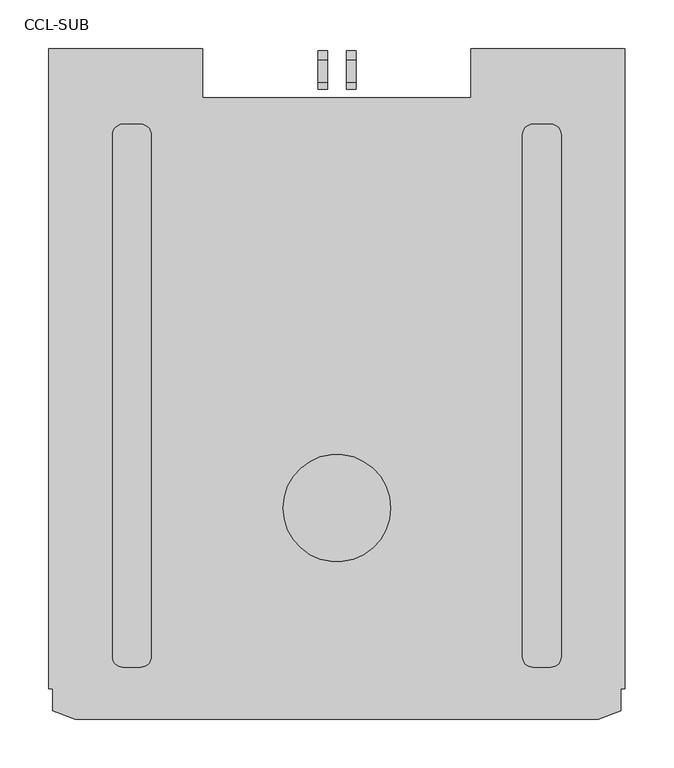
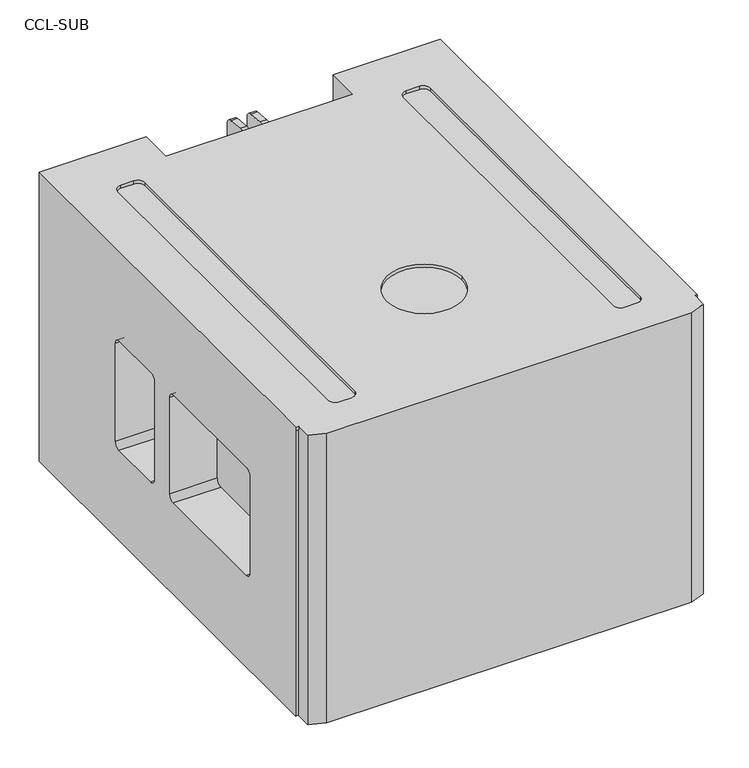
"""IFC4 building model written with IfcOpenShell, lengths in millimetres: proxy geometry, d&b CL-Series CCL-SUB : CCL-SUB."""

from ifc_helpers import new_model, si_unit, point, frame, frame_2d, origin, place, context, project, spatial, polyline, circle_curve, trimmed, segment, composite_curve, outline, extrude, source, transform, mapped, element, save
from ifc_brep_helpers import plane_surface, revolved_surface, advanced_brep


def ccl_sub_ec176843(model_context):
    return source(origin(), model_context, "Body", "SolidModel", [
        advanced_brep(
        [(2232.0239358, -36.5494027, 5.0), (2209.0, -28.1693754, 5.0), (2209.0, -4.1494027, 5.0), (2205.0, -4.1494027, 5.0), (2205.0, 649.4505973, 5.0), (2362.5, 649.4505973, 5.0), (2362.5, 599.4505973, 5.0), (2637.5, 599.4505973, 5.0), (2637.5, 649.4505973, 5.0), (2795.0, 649.4505973, 5.0), (2795.0, -5.5494027, 5.0), (2791.0, -5.5494027, 5.0), (2791.0, -28.1693754, 5.0), (2767.9760642, -36.5494027, 5.0), (2309.8, 561.7505973, 450.0), (2299.3, 572.2505973, 450.0), (2280.7, 572.2505973, 450.0), (2270.2, 561.7505973, 450.0), (2270.2, 27.1505973, 450.0), (2280.7, 16.6505973, 450.0), (2299.3, 16.6505973, 450.0), (2309.8, 27.1505973, 450.0), (2555.0, 179.4505973, 450.0), (2445.0, 179.4505973, 450.0), (2719.3, 572.2505973, 450.0), (2700.7, 572.2505973, 450.0), (2690.2, 561.7505973, 450.0), (2690.2, 27.1505973, 450.0), (2700.7, 16.6505973, 450.0), (2719.3, 16.6505973, 450.0), (2729.8, 27.1505973, 450.0), (2729.8, 561.7505973, 450.0), (2362.5, 649.4505973, 455.0), (2205.0, 649.4505973, 455.0), (2205.0, -5.5494027, 455.0), (2209.0, -5.5494027, 455.0), (2209.0, -28.1693754, 455.0), (2232.0239358, -36.5494027, 455.0), (2767.9760642, -36.5494027, 455.0), (2791.0, -28.1693754, 455.0), (2791.0, -5.5494027, 455.0), (2795.0, -5.5494027, 455.0), (2795.0, 649.4505973, 455.0), (2637.5, 649.4505973, 455.0), (2637.5, 599.4505973, 455.0), (2362.5, 599.4505973, 455.0), (2299.3, 572.2505973, 455.0), (2309.8, 561.7505973, 455.0), (2309.8, 27.1505973, 455.0), (2299.3, 16.6505973, 455.0), (2280.7, 16.6505973, 455.0), (2270.2, 27.1505973, 455.0), (2270.2, 561.7505973, 455.0), (2280.7, 572.2505973, 455.0), (2445.0, 179.4505973, 455.0), (2555.0, 179.4505973, 455.0), (2700.7, 572.2505973, 455.0), (2719.3, 572.2505973, 455.0), (2729.8, 561.7505973, 455.0), (2729.8, 27.1505973, 455.0), (2719.3, 16.6505973, 455.0), (2700.7, 16.6505973, 455.0), (2690.2, 27.1505973, 455.0), (2690.2, 561.7505973, 455.0), (2718.5, 644.4505973, 271.0), (2729.0, 644.4505973, 260.5), (2729.0, 644.4505973, 159.5), (2718.5, 644.4505973, 149.0), (2674.5, 644.4505973, 149.0), (2664.0, 644.4505973, 159.5), (2664.0, 644.4505973, 260.5), (2674.5, 644.4505973, 271.0), (2281.5, 644.4505973, 271.0), (2325.5, 644.4505973, 271.0), (2336.0, 644.4505973, 260.5), (2336.0, 644.4505973, 159.5), (2325.5, 644.4505973, 149.0), (2281.5, 644.4505973, 149.0), (2271.0, 644.4505973, 159.5), (2271.0, 644.4505973, 260.5), (2725.0, 455.2505973, 306.2), (2725.0, 446.2505973, 315.2), (2725.0, 365.2505973, 315.2), (2725.0, 356.2505973, 306.2), (2725.0, 356.2505973, 154.2), (2725.0, 365.2505973, 145.2), (2725.0, 446.2505973, 145.2), (2725.0, 455.2505973, 154.2), (2725.0, 316.7505973, 306.2), (2725.0, 307.7505973, 315.2), (2725.0, 121.7505973, 315.2), (2725.0, 112.7505973, 306.2), (2725.0, 112.7505973, 156.7), (2725.0, 121.7505973, 147.7), (2725.0, 307.7505973, 147.7), (2725.0, 316.7505973, 156.7), (2729.0, 649.4505973, 260.5), (2718.5, 649.4505973, 271.0), (2674.5, 649.4505973, 271.0), (2664.0, 649.4505973, 260.5), (2664.0, 649.4505973, 159.5), (2674.5, 649.4505973, 149.0), (2718.5, 649.4505973, 149.0), (2729.0, 649.4505973, 159.5), (2209.0, -5.5494027, 450.0), (2205.0, -5.5494027, 450.0), (2205.0, -4.1494027, 450.0), (2209.0, -4.1494027, 450.0), (2625.0, 599.4505973, 145.0), (2625.0, 599.4505973, 395.0), (2612.0, 599.4505973, 408.0), (2544.3424624, 599.4505973, 408.0), (2524.5518543, 599.4505973, 334.1404454), (2524.5518543, 599.4505973, 132.0), (2612.0, 599.4505973, 132.0), (2388.0, 599.4505973, 408.0), (2375.0, 599.4505973, 395.0), (2375.0, 599.4505973, 145.0), (2388.0, 599.4505973, 132.0), (2475.4481457, 599.4505973, 132.0), (2475.4481457, 599.4505973, 334.1404454), (2455.6575376, 599.4505973, 408.0), (2549.4918854, 599.4505973, 42.6706286), (2558.1852178, 599.4505973, 36.0), (2617.0, 599.4505973, 36.0), (2626.0, 599.4505973, 45.0), (2626.0, 599.4505973, 120.0), (2617.0, 599.4505973, 129.0), (2538.0890284, 599.4505973, 129.0), (2529.3956959, 599.4505973, 117.6706286), (2450.5081146, 599.4505973, 42.6706286), (2470.6043041, 599.4505973, 117.6706286), (2461.9109716, 599.4505973, 129.0), (2383.0, 599.4505973, 129.0), (2374.0, 599.4505973, 120.0), (2374.0, 599.4505973, 45.0), (2383.0, 599.4505973, 36.0), (2441.8147822, 599.4505973, 36.0), (2325.5, 649.4505973, 271.0), (2281.5, 649.4505973, 271.0), (2271.0, 649.4505973, 260.5), (2271.0, 649.4505973, 159.5), (2281.5, 649.4505973, 149.0), (2325.5, 649.4505973, 149.0), (2336.0, 649.4505973, 159.5), (2336.0, 649.4505973, 260.5), (2275.0, 446.2505973, 315.2), (2275.0, 455.2505973, 306.2), (2275.0, 455.2505973, 154.2), (2275.0, 446.2505973, 145.2), (2275.0, 365.2505973, 145.2), (2275.0, 356.2505973, 154.2), (2275.0, 356.2505973, 306.2), (2275.0, 365.2505973, 315.2), (2275.0, 307.7505973, 315.2), (2275.0, 316.7505973, 306.2), (2275.0, 316.7505973, 156.7), (2275.0, 307.7505973, 147.7), (2275.0, 121.7505973, 147.7), (2275.0, 112.7505973, 156.7), (2275.0, 112.7505973, 306.2), (2275.0, 121.7505973, 315.2), (2795.0, 446.2505973, 315.2), (2795.0, 455.2505973, 306.2), (2795.0, 455.2505973, 154.2), (2795.0, 446.2505973, 145.2), (2795.0, 365.2505973, 145.2), (2795.0, 356.2505973, 154.2), (2795.0, 356.2505973, 306.2), (2795.0, 365.2505973, 315.2), (2795.0, 307.7505973, 315.2), (2795.0, 316.7505973, 306.2), (2795.0, 316.7505973, 156.7), (2795.0, 307.7505973, 147.7), (2795.0, 121.7505973, 147.7), (2795.0, 112.7505973, 156.7), (2795.0, 112.7505973, 306.2), (2795.0, 121.7505973, 315.2), (2205.0, 446.2505973, 315.2), (2205.0, 365.2505973, 315.2), (2205.0, 356.2505973, 306.2), (2205.0, 356.2505973, 154.2), (2205.0, 365.2505973, 145.2), (2205.0, 446.2505973, 145.2), (2205.0, 455.2505973, 154.2), (2205.0, 455.2505973, 306.2), (2205.0, 307.7505973, 315.2), (2205.0, 121.7505973, 315.2), (2205.0, 112.7505973, 306.2), (2205.0, 112.7505973, 156.7), (2205.0, 121.7505973, 147.7), (2205.0, 307.7505973, 147.7), (2205.0, 316.7505973, 156.7), (2205.0, 316.7505973, 306.2), (2625.0, 594.4505973, 395.0), (2625.0, 594.4505973, 145.0), (2612.0, 594.4505973, 132.0), (2524.5518543, 594.4505973, 132.0), (2524.5518543, 594.4505973, 334.1404454), (2544.3424624, 594.4505973, 408.0), (2612.0, 594.4505973, 408.0), (2375.0, 594.4505973, 395.0), (2388.0, 594.4505973, 408.0), (2455.6575376, 594.4505973, 408.0), (2475.4481457, 594.4505973, 334.1404454), (2475.4481457, 594.4505973, 132.0), (2388.0, 594.4505973, 132.0), (2375.0, 594.4505973, 145.0), (2558.1852178, 594.4505973, 36.0), (2549.4918854, 594.4505973, 42.6706286), (2529.3956959, 594.4505973, 117.6706286), (2538.0890284, 594.4505973, 129.0), (2617.0, 594.4505973, 129.0), (2626.0, 594.4505973, 120.0), (2626.0, 594.4505973, 45.0), (2617.0, 594.4505973, 36.0), (2470.6043041, 594.4505973, 117.6706286), (2450.5081146, 594.4505973, 42.6706286), (2441.8147822, 594.4505973, 36.0), (2383.0, 594.4505973, 36.0), (2374.0, 594.4505973, 45.0), (2374.0, 594.4505973, 120.0), (2383.0, 594.4505973, 129.0), (2461.9109716, 594.4505973, 129.0)],
        [
            (0, 1),
            (1, 2),
            (2, 3),
            (3, 4),
            (4, 5),
            (5, 6),
            (6, 7),
            (7, 8),
            (8, 9),
            (9, 10),
            (10, 11),
            (11, 12),
            (12, 13),
            (13, 0),
            (14, 15, circle_curve(frame((2299.3, 561.7505973, 450.0), z_axis=(0.0, 0.0, 1.0), x_axis=(0.0, 1.0, 0.0)), 10.5)),
            (15, 16),
            (16, 17, circle_curve(frame((2280.7, 561.7505973, 450.0), z_axis=(0.0, 0.0, 1.0), x_axis=(1.0, 0.0, 0.0)), 10.5)),
            (17, 18),
            (18, 19, circle_curve(frame((2280.7, 27.1505973, 450.0), z_axis=(0.0, 0.0, 1.0), x_axis=(0.0, 1.0, 0.0)), 10.5)),
            (19, 20),
            (20, 21, circle_curve(frame((2299.3, 27.1505973, 450.0), z_axis=(0.0, 0.0, 1.0), x_axis=(0.0, 1.0, 0.0)), 10.5)),
            (21, 14),
            (22, 23, circle_curve(frame((2500.0, 179.4505973, 450.0), z_axis=(0.0, 0.0, 1.0), x_axis=(1.0, 0.0, 0.0)), 55.0)),
            (23, 22, circle_curve(frame((2500.0, 179.4505973, 450.0), z_axis=(0.0, 0.0, 1.0), x_axis=(1.0, 0.0, 0.0)), 55.0)),
            (24, 25),
            (25, 26, circle_curve(frame((2700.7, 561.7505973, 450.0), z_axis=(0.0, 0.0, 1.0), x_axis=(0.0, 1.0, 0.0)), 10.5)),
            (26, 27),
            (27, 28, circle_curve(frame((2700.7, 27.1505973, 450.0), z_axis=(0.0, 0.0, 1.0), x_axis=(0.0, 1.0, 0.0)), 10.5)),
            (28, 29),
            (29, 30, circle_curve(frame((2719.3, 27.1505973, 450.0), z_axis=(0.0, 0.0, 1.0), x_axis=(0.0, 1.0, 0.0)), 10.5)),
            (30, 31),
            (31, 24, circle_curve(frame((2719.3, 561.7505973, 450.0), z_axis=(0.0, 0.0, 1.0), x_axis=(-1.0, 0.0, 0.0)), 10.5)),
            (32, 33),
            (33, 34),
            (34, 35),
            (35, 36),
            (36, 37),
            (37, 38),
            (38, 39),
            (39, 40),
            (40, 41),
            (41, 42),
            (42, 43),
            (43, 44),
            (44, 45),
            (45, 32),
            (46, 47, circle_curve(frame((2299.3, 561.7505973, 455.0), z_axis=(0.0, 0.0, -1.0), x_axis=(0.0, 1.0, 0.0)), 10.5)),
            (47, 48),
            (48, 49, circle_curve(frame((2299.3, 27.1505973, 455.0), z_axis=(0.0, 0.0, -1.0), x_axis=(0.0, 1.0, 0.0)), 10.5)),
            (49, 50),
            (50, 51, circle_curve(frame((2280.7, 27.1505973, 455.0), z_axis=(0.0, 0.0, -1.0), x_axis=(0.0, 1.0, 0.0)), 10.5)),
            (51, 52),
            (52, 53, circle_curve(frame((2280.7, 561.7505973, 455.0), z_axis=(0.0, 0.0, -1.0), x_axis=(1.0, 0.0, 0.0)), 10.5)),
            (53, 46),
            (54, 55, circle_curve(frame((2500.0, 179.4505973, 455.0), z_axis=(0.0, 0.0, -1.0), x_axis=(1.0, 0.0, 0.0)), 55.0)),
            (55, 54, circle_curve(frame((2500.0, 179.4505973, 455.0), z_axis=(0.0, 0.0, -1.0), x_axis=(1.0, 0.0, 0.0)), 55.0)),
            (56, 57),
            (57, 58, circle_curve(frame((2719.3, 561.7505973, 455.0), z_axis=(0.0, 0.0, -1.0), x_axis=(-1.0, 0.0, 0.0)), 10.5)),
            (58, 59),
            (59, 60, circle_curve(frame((2719.3, 27.1505973, 455.0), z_axis=(0.0, 0.0, -1.0), x_axis=(0.0, 1.0, 0.0)), 10.5)),
            (60, 61),
            (61, 62, circle_curve(frame((2700.7, 27.1505973, 455.0), z_axis=(0.0, 0.0, -1.0), x_axis=(0.0, 1.0, 0.0)), 10.5)),
            (62, 63),
            (63, 56, circle_curve(frame((2700.7, 561.7505973, 455.0), z_axis=(0.0, 0.0, -1.0), x_axis=(0.0, 1.0, 0.0)), 10.5)),
            (46, 15),
            (14, 47),
            (21, 48),
            (20, 49),
            (19, 50),
            (18, 51),
            (17, 52),
            (53, 16),
            (64, 65, circle_curve(frame((2718.5, 644.4505973, 260.5), z_axis=(0.0, 1.0, 0.0), x_axis=(1.0, 0.0, 0.0)), 10.5)),
            (65, 66),
            (66, 67, circle_curve(frame((2718.5, 644.4505973, 159.5), z_axis=(0.0, 1.0, 0.0), x_axis=(1.0, 0.0, 0.0)), 10.5)),
            (67, 68),
            (68, 69, circle_curve(frame((2674.5, 644.4505973, 159.5), z_axis=(0.0, 1.0, 0.0), x_axis=(1.0, 0.0, 0.0)), 10.5)),
            (69, 70),
            (70, 71, circle_curve(frame((2674.5, 644.4505973, 260.5), z_axis=(0.0, 1.0, 0.0), x_axis=(1.0, 0.0, 0.0)), 10.5)),
            (71, 64),
            (72, 73),
            (73, 74, circle_curve(frame((2325.5, 644.4505973, 260.5), z_axis=(0.0, 1.0, 0.0), x_axis=(-1.0, 0.0, 0.0)), 10.5)),
            (74, 75),
            (75, 76, circle_curve(frame((2325.5, 644.4505973, 159.5), z_axis=(0.0, 1.0, 0.0), x_axis=(-1.0, 0.0, 0.0)), 10.5)),
            (76, 77),
            (77, 78, circle_curve(frame((2281.5, 644.4505973, 159.5), z_axis=(0.0, 1.0, 0.0), x_axis=(-1.0, 0.0, 0.0)), 10.5)),
            (78, 79),
            (79, 72, circle_curve(frame((2281.5, 644.4505973, 260.5), z_axis=(0.0, 1.0, 0.0), x_axis=(-1.0, 0.0, 0.0)), 10.5)),
            (13, 38),
            (37, 0),
            (80, 81, circle_curve(frame((2725.0, 446.2505973, 306.2), z_axis=(1.0, 0.0, 0.0), x_axis=(0.0, 1.0, 0.0)), 9.0)),
            (81, 82),
            (82, 83, circle_curve(frame((2725.0, 365.2505973, 306.2), z_axis=(1.0, 0.0, 0.0), x_axis=(0.0, 1.0, 0.0)), 9.0)),
            (83, 84),
            (84, 85, circle_curve(frame((2725.0, 365.2505973, 154.2), z_axis=(1.0, 0.0, 0.0), x_axis=(0.0, 1.0, 0.0)), 9.0)),
            (85, 86),
            (86, 87, circle_curve(frame((2725.0, 446.2505973, 154.2), z_axis=(1.0, 0.0, 0.0), x_axis=(0.0, 1.0, 0.0)), 9.0)),
            (87, 80),
            (88, 89, circle_curve(frame((2725.0, 307.7505973, 306.2), z_axis=(1.0, 0.0, 0.0), x_axis=(0.0, 0.0, 1.0)), 9.0)),
            (89, 90),
            (90, 91, circle_curve(frame((2725.0, 121.7505973, 306.2), z_axis=(1.0, 0.0, 0.0), x_axis=(0.0, 0.0, 1.0)), 9.0)),
            (91, 92),
            (92, 93, circle_curve(frame((2725.0, 121.7505973, 156.7), z_axis=(1.0, 0.0, 0.0), x_axis=(0.0, 0.0, -1.0)), 9.0)),
            (93, 94),
            (94, 95, circle_curve(frame((2725.0, 307.7505973, 156.7), z_axis=(1.0, 0.0, 0.0), x_axis=(0.0, 0.0, -1.0)), 9.0)),
            (95, 88),
            (8, 43),
            (42, 9),
            (96, 97, circle_curve(frame((2718.5, 649.4505973, 260.5), z_axis=(0.0, -1.0, 0.0), x_axis=(1.0, 0.0, 0.0)), 10.5)),
            (97, 98),
            (98, 99, circle_curve(frame((2674.5, 649.4505973, 260.5), z_axis=(0.0, -1.0, 0.0), x_axis=(1.0, 0.0, 0.0)), 10.5)),
            (99, 100),
            (100, 101, circle_curve(frame((2674.5, 649.4505973, 159.5), z_axis=(0.0, -1.0, 0.0), x_axis=(1.0, 0.0, 0.0)), 10.5)),
            (101, 102),
            (102, 103, circle_curve(frame((2718.5, 649.4505973, 159.5), z_axis=(0.0, -1.0, 0.0), x_axis=(1.0, 0.0, 0.0)), 10.5)),
            (103, 96),
            (54, 23),
            (22, 55),
            (104, 105),
            (105, 106),
            (106, 107),
            (107, 104),
            (104, 35),
            (34, 105),
            (107, 2),
            (1, 36),
            (56, 25),
            (24, 57),
            (31, 58),
            (30, 59),
            (29, 60),
            (28, 61),
            (27, 62),
            (26, 63),
            (12, 39),
            (11, 40),
            (7, 44),
            (6, 45),
            (108, 109),
            (109, 110, circle_curve(frame((2612.0, 599.4505973, 395.0), z_axis=(0.0, -1.0, 0.0), x_axis=(1.0, 0.0, 0.0)), 13.0)),
            (110, 111),
            (111, 112),
            (112, 113),
            (113, 114),
            (114, 108, circle_curve(frame((2612.0, 599.4505973, 145.0), z_axis=(0.0, -1.0, 0.0), x_axis=(1.0, 0.0, 0.0)), 13.0)),
            (115, 116, circle_curve(frame((2388.0, 599.4505973, 395.0), z_axis=(0.0, -1.0, 0.0), x_axis=(-1.0, 0.0, 0.0)), 13.0)),
            (116, 117),
            (117, 118, circle_curve(frame((2388.0, 599.4505973, 145.0), z_axis=(0.0, -1.0, 0.0), x_axis=(-1.0, 0.0, 0.0)), 13.0)),
            (118, 119),
            (119, 120),
            (120, 121),
            (121, 115),
            (122, 123, circle_curve(frame((2558.1852178, 599.4505973, 45.0), z_axis=(0.0, -1.0, 0.0), x_axis=(1.0, 0.0, 0.0)), 9.0)),
            (123, 124),
            (124, 125, circle_curve(frame((2617.0, 599.4505973, 45.0), z_axis=(0.0, -1.0, 0.0), x_axis=(1.0, 0.0, 0.0)), 9.0)),
            (125, 126),
            (126, 127, circle_curve(frame((2617.0, 599.4505973, 120.0), z_axis=(0.0, -1.0, 0.0), x_axis=(1.0, 0.0, 0.0)), 9.0)),
            (127, 128),
            (128, 129, circle_curve(frame((2538.0890284, 599.4505973, 120.0), z_axis=(0.0, -1.0, 0.0), x_axis=(1.0, 0.0, 0.0)), 9.0)),
            (129, 122),
            (130, 131),
            (131, 132, circle_curve(frame((2461.9109716, 599.4505973, 120.0), z_axis=(0.0, -1.0, 0.0), x_axis=(-1.0, 0.0, 0.0)), 9.0)),
            (132, 133),
            (133, 134, circle_curve(frame((2383.0, 599.4505973, 120.0), z_axis=(0.0, -1.0, 0.0), x_axis=(-1.0, 0.0, 0.0)), 9.0)),
            (134, 135),
            (135, 136, circle_curve(frame((2383.0, 599.4505973, 45.0), z_axis=(0.0, -1.0, 0.0), x_axis=(-1.0, 0.0, 0.0)), 9.0)),
            (136, 137),
            (137, 130, circle_curve(frame((2441.8147822, 599.4505973, 45.0), z_axis=(0.0, -1.0, 0.0), x_axis=(-1.0, 0.0, 0.0)), 9.0)),
            (5, 32),
            (4, 33),
            (138, 139),
            (139, 140, circle_curve(frame((2281.5, 649.4505973, 260.5), z_axis=(0.0, -1.0, 0.0), x_axis=(-1.0, 0.0, 0.0)), 10.5)),
            (140, 141),
            (141, 142, circle_curve(frame((2281.5, 649.4505973, 159.5), z_axis=(0.0, -1.0, 0.0), x_axis=(-1.0, 0.0, 0.0)), 10.5)),
            (142, 143),
            (143, 144, circle_curve(frame((2325.5, 649.4505973, 159.5), z_axis=(0.0, -1.0, 0.0), x_axis=(-1.0, 0.0, 0.0)), 10.5)),
            (144, 145),
            (145, 138, circle_curve(frame((2325.5, 649.4505973, 260.5), z_axis=(0.0, -1.0, 0.0), x_axis=(-1.0, 0.0, 0.0)), 10.5)),
            (146, 147, circle_curve(frame((2275.0, 446.2505973, 306.2), z_axis=(-1.0, 0.0, 0.0), x_axis=(0.0, 1.0, 0.0)), 9.0)),
            (147, 148),
            (148, 149, circle_curve(frame((2275.0, 446.2505973, 154.2), z_axis=(-1.0, 0.0, 0.0), x_axis=(0.0, 1.0, 0.0)), 9.0)),
            (149, 150),
            (150, 151, circle_curve(frame((2275.0, 365.2505973, 154.2), z_axis=(-1.0, 0.0, 0.0), x_axis=(0.0, 1.0, 0.0)), 9.0)),
            (151, 152),
            (152, 153, circle_curve(frame((2275.0, 365.2505973, 306.2), z_axis=(-1.0, 0.0, 0.0), x_axis=(0.0, 1.0, 0.0)), 9.0)),
            (153, 146),
            (154, 155, circle_curve(frame((2275.0, 307.7505973, 306.2), z_axis=(-1.0, 0.0, 0.0), x_axis=(0.0, 0.0, 1.0)), 9.0)),
            (155, 156),
            (156, 157, circle_curve(frame((2275.0, 307.7505973, 156.7), z_axis=(-1.0, 0.0, 0.0), x_axis=(0.0, 0.0, -1.0)), 9.0)),
            (157, 158),
            (158, 159, circle_curve(frame((2275.0, 121.7505973, 156.7), z_axis=(-1.0, 0.0, 0.0), x_axis=(0.0, 0.0, -1.0)), 9.0)),
            (159, 160),
            (160, 161, circle_curve(frame((2275.0, 121.7505973, 306.2), z_axis=(-1.0, 0.0, 0.0), x_axis=(0.0, 0.0, 1.0)), 9.0)),
            (161, 154),
            (41, 10),
            (162, 163, circle_curve(frame((2795.0, 446.2505973, 306.2), z_axis=(-1.0, 0.0, 0.0), x_axis=(0.0, 1.0, 0.0)), 9.0)),
            (163, 164),
            (164, 165, circle_curve(frame((2795.0, 446.2505973, 154.2), z_axis=(-1.0, 0.0, 0.0), x_axis=(0.0, 1.0, 0.0)), 9.0)),
            (165, 166),
            (166, 167, circle_curve(frame((2795.0, 365.2505973, 154.2), z_axis=(-1.0, 0.0, 0.0), x_axis=(0.0, 1.0, 0.0)), 9.0)),
            (167, 168),
            (168, 169, circle_curve(frame((2795.0, 365.2505973, 306.2), z_axis=(-1.0, 0.0, 0.0), x_axis=(0.0, 1.0, 0.0)), 9.0)),
            (169, 162),
            (170, 171, circle_curve(frame((2795.0, 307.7505973, 306.2), z_axis=(-1.0, 0.0, 0.0), x_axis=(0.0, 0.0, 1.0)), 9.0)),
            (171, 172),
            (172, 173, circle_curve(frame((2795.0, 307.7505973, 156.7), z_axis=(-1.0, 0.0, 0.0), x_axis=(0.0, 0.0, -1.0)), 9.0)),
            (173, 174),
            (174, 175, circle_curve(frame((2795.0, 121.7505973, 156.7), z_axis=(-1.0, 0.0, 0.0), x_axis=(0.0, 0.0, -1.0)), 9.0)),
            (175, 176),
            (176, 177, circle_curve(frame((2795.0, 121.7505973, 306.2), z_axis=(-1.0, 0.0, 0.0), x_axis=(0.0, 0.0, 1.0)), 9.0)),
            (177, 170),
            (162, 81),
            (80, 163),
            (87, 164),
            (86, 165),
            (85, 166),
            (84, 167),
            (83, 168),
            (82, 169),
            (170, 89),
            (88, 171),
            (95, 172),
            (94, 173),
            (93, 174),
            (92, 175),
            (91, 176),
            (90, 177),
            (3, 106),
            (178, 179),
            (179, 180, circle_curve(frame((2205.0, 365.2505973, 306.2), z_axis=(1.0, 0.0, 0.0), x_axis=(0.0, 1.0, 0.0)), 9.0)),
            (180, 181),
            (181, 182, circle_curve(frame((2205.0, 365.2505973, 154.2), z_axis=(1.0, 0.0, 0.0), x_axis=(0.0, 1.0, 0.0)), 9.0)),
            (182, 183),
            (183, 184, circle_curve(frame((2205.0, 446.2505973, 154.2), z_axis=(1.0, 0.0, 0.0), x_axis=(0.0, 1.0, 0.0)), 9.0)),
            (184, 185),
            (185, 178, circle_curve(frame((2205.0, 446.2505973, 306.2), z_axis=(1.0, 0.0, 0.0), x_axis=(0.0, 1.0, 0.0)), 9.0)),
            (186, 187),
            (187, 188, circle_curve(frame((2205.0, 121.7505973, 306.2), z_axis=(1.0, 0.0, 0.0), x_axis=(0.0, 0.0, 1.0)), 9.0)),
            (188, 189),
            (189, 190, circle_curve(frame((2205.0, 121.7505973, 156.7), z_axis=(1.0, 0.0, 0.0), x_axis=(0.0, 0.0, -1.0)), 9.0)),
            (190, 191),
            (191, 192, circle_curve(frame((2205.0, 307.7505973, 156.7), z_axis=(1.0, 0.0, 0.0), x_axis=(0.0, 0.0, -1.0)), 9.0)),
            (192, 193),
            (193, 186, circle_curve(frame((2205.0, 307.7505973, 306.2), z_axis=(1.0, 0.0, 0.0), x_axis=(0.0, 0.0, 1.0)), 9.0)),
            (185, 147),
            (146, 178),
            (184, 148),
            (183, 149),
            (182, 150),
            (181, 151),
            (180, 152),
            (179, 153),
            (193, 155),
            (154, 186),
            (192, 156),
            (191, 157),
            (190, 158),
            (189, 159),
            (188, 160),
            (187, 161),
            (64, 97),
            (96, 65),
            (103, 66),
            (102, 67),
            (101, 68),
            (100, 69),
            (99, 70),
            (98, 71),
            (72, 139),
            (138, 73),
            (145, 74),
            (144, 75),
            (143, 76),
            (142, 77),
            (141, 78),
            (140, 79),
            (194, 195),
            (195, 196, circle_curve(frame((2612.0, 594.4505973, 145.0), z_axis=(0.0, 1.0, 0.0), x_axis=(1.0, 0.0, 0.0)), 13.0)),
            (196, 197),
            (197, 198),
            (198, 199),
            (199, 200),
            (200, 194, circle_curve(frame((2612.0, 594.4505973, 395.0), z_axis=(0.0, 1.0, 0.0), x_axis=(1.0, 0.0, 0.0)), 13.0)),
            (201, 202, circle_curve(frame((2388.0, 594.4505973, 395.0), z_axis=(0.0, 1.0, 0.0), x_axis=(-1.0, 0.0, 0.0)), 13.0)),
            (202, 203),
            (203, 204),
            (204, 205),
            (205, 206),
            (206, 207, circle_curve(frame((2388.0, 594.4505973, 145.0), z_axis=(0.0, 1.0, 0.0), x_axis=(-1.0, 0.0, 0.0)), 13.0)),
            (207, 201),
            (208, 209, circle_curve(frame((2558.1852178, 594.4505973, 45.0), z_axis=(0.0, 1.0, 0.0), x_axis=(1.0, 0.0, 0.0)), 9.0)),
            (209, 210),
            (210, 211, circle_curve(frame((2538.0890284, 594.4505973, 120.0), z_axis=(0.0, 1.0, 0.0), x_axis=(1.0, 0.0, 0.0)), 9.0)),
            (211, 212),
            (212, 213, circle_curve(frame((2617.0, 594.4505973, 120.0), z_axis=(0.0, 1.0, 0.0), x_axis=(1.0, 0.0, 0.0)), 9.0)),
            (213, 214),
            (214, 215, circle_curve(frame((2617.0, 594.4505973, 45.0), z_axis=(0.0, 1.0, 0.0), x_axis=(1.0, 0.0, 0.0)), 9.0)),
            (215, 208),
            (216, 217),
            (217, 218, circle_curve(frame((2441.8147822, 594.4505973, 45.0), z_axis=(0.0, 1.0, 0.0), x_axis=(-1.0, 0.0, 0.0)), 9.0)),
            (218, 219),
            (219, 220, circle_curve(frame((2383.0, 594.4505973, 45.0), z_axis=(0.0, 1.0, 0.0), x_axis=(-1.0, 0.0, 0.0)), 9.0)),
            (220, 221),
            (221, 222, circle_curve(frame((2383.0, 594.4505973, 120.0), z_axis=(0.0, 1.0, 0.0), x_axis=(-1.0, 0.0, 0.0)), 9.0)),
            (222, 223),
            (223, 216, circle_curve(frame((2461.9109716, 594.4505973, 120.0), z_axis=(0.0, 1.0, 0.0), x_axis=(-1.0, 0.0, 0.0)), 9.0)),
            (194, 109),
            (108, 195),
            (114, 196),
            (113, 197),
            (112, 198),
            (111, 199),
            (110, 200),
            (201, 116),
            (115, 202),
            (121, 203),
            (120, 204),
            (119, 205),
            (118, 206),
            (117, 207),
            (208, 123),
            (122, 209),
            (129, 210),
            (128, 211),
            (127, 212),
            (126, 213),
            (125, 214),
            (124, 215),
            (216, 131),
            (130, 217),
            (137, 218),
            (136, 219),
            (135, 220),
            (134, 221),
            (133, 222),
            (132, 223),
        ],
        [
            plane_surface(frame((2725.0, 852.7005973, 5.0), z_axis=(0.0, 0.0, -1.0), x_axis=(0.0, -1.0, 0.0))),
            plane_surface(frame((2725.0, 852.7005973, 450.0), z_axis=(0.0, 0.0, 1.0), x_axis=(0.0, 1.0, 0.0))),
            plane_surface(frame((1715.924767, 649.4505973, 455.0), z_axis=(0.0, 0.0, 1.0), x_axis=(-1.0, 0.0, 0.0))),
            revolved_surface(polyline([(2299.3, 572.2505973, 450.0), (2299.3, 572.2505973, 455.0)]), (2299.3, 561.7505973, 455.0), (0.0, 0.0, -1.0)),
            plane_surface(frame((2309.8, 561.7505973, 455.0), z_axis=(-1.0, 0.0, 0.0), x_axis=(0.0, 0.0, -1.0))),
            revolved_surface(polyline([(2299.3, 37.6505973, 450.0), (2299.3, 37.6505973, 455.0)]), (2299.3, 27.1505973, 455.0), (0.0, 0.0, -1.0)),
            plane_surface(frame((2299.3, 16.6505973, 455.0), z_axis=(0.0, 1.0, 0.0), x_axis=(0.0, 0.0, -1.0))),
            revolved_surface(polyline([(2280.7, 37.6505973, 450.0), (2280.7, 37.6505973, 455.0)]), (2280.7, 27.1505973, 455.0), (0.0, 0.0, -1.0)),
            plane_surface(frame((2270.2, 27.1505973, 455.0), z_axis=(1.0, 0.0, 0.0), x_axis=(0.0, 0.0, -1.0))),
            plane_surface(frame((2280.7, 572.2505973, 455.0), z_axis=(0.0, -1.0, 0.0), x_axis=(0.0, 0.0, -1.0))),
            plane_surface(frame((2729.0, 644.4505973, 260.5), z_axis=(0.0, 1.0, 0.0), x_axis=(0.0, 0.0, 1.0))),
            plane_surface(frame((2275.0, -36.5494027, 450.0), z_axis=(0.0, -1.0, 0.0), x_axis=(0.0, 0.0, -1.0))),
            plane_surface(frame((2725.0, -36.5494027, 450.0), z_axis=(1.0, 0.0, 0.0), x_axis=(0.0, 0.0, -1.0))),
            plane_surface(frame((2725.0, 649.4505973, 450.0), z_axis=(0.0, 1.0, 0.0), x_axis=(0.0, 0.0, -1.0))),
            revolved_surface(polyline([(2555.0, 179.4505973, 450.0), (2555.0, 179.4505973, 455.0)]), (2500.0, 179.4505973, 455.0), (0.0, 0.0, -1.0)),
            plane_surface(frame((1715.924767, 649.4505973, 450.0), z_axis=(0.0, 0.0, -1.0), x_axis=(1.0, 0.0, 0.0))),
            plane_surface(frame((2205.0, -5.5494027, 455.0), z_axis=(0.0, -1.0, 0.0), x_axis=(0.0, 0.0, -1.0))),
            plane_surface(frame((2209.0, -5.5494027, 455.0), z_axis=(-1.0, 0.0, 0.0), x_axis=(0.0, 0.0, -1.0))),
            plane_surface(frame((2209.0, -28.1693754, 455.0), z_axis=(-0.34202014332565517, -0.9396926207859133, 0.0), x_axis=(0.0, 0.0, -1.0))),
            revolved_surface(polyline([(2291.2, 561.7505973, 450.0), (2291.2, 561.7505973, 455.0)]), (2280.7, 561.7505973, 455.0), (0.0, 0.0, -1.0)),
            plane_surface(frame((2700.7, 572.2505973, 455.0), z_axis=(0.0, -1.0, 0.0), x_axis=(0.0, 0.0, -1.0))),
            revolved_surface(polyline([(2708.8, 561.7505973, 450.0), (2708.8, 561.7505973, 455.0)]), (2719.3, 561.7505973, 455.0), (0.0, 0.0, -1.0)),
            plane_surface(frame((2729.8, 561.7505973, 455.0), z_axis=(-1.0, 0.0, 0.0), x_axis=(0.0, 0.0, -1.0))),
            revolved_surface(polyline([(2719.3, 37.6505973, 450.0), (2719.3, 37.6505973, 455.0)]), (2719.3, 27.1505973, 455.0), (0.0, 0.0, -1.0)),
            plane_surface(frame((2719.3, 16.6505973, 455.0), z_axis=(0.0, 1.0, 0.0), x_axis=(0.0, 0.0, -1.0))),
            revolved_surface(polyline([(2700.7, 37.6505973, 450.0), (2700.7, 37.6505973, 455.0)]), (2700.7, 27.1505973, 455.0), (0.0, 0.0, -1.0)),
            plane_surface(frame((2690.2, 27.1505973, 455.0), z_axis=(1.0, 0.0, 0.0), x_axis=(0.0, 0.0, -1.0))),
            revolved_surface(polyline([(2700.7, 572.2505973, 450.0), (2700.7, 572.2505973, 455.0)]), (2700.7, 561.7505973, 455.0), (0.0, 0.0, -1.0)),
            plane_surface(frame((2767.9760642, -36.5494027, 455.0), z_axis=(0.34202014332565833, -0.9396926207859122, 0.0), x_axis=(0.0, 0.0, -1.0))),
            plane_surface(frame((2791.0, -28.1693754, 455.0), z_axis=(1.0, 0.0, 0.0), x_axis=(0.0, 0.0, -1.0))),
            plane_surface(frame((2637.5, 649.4505973, 450.0), z_axis=(-1.0, 0.0, 0.0), x_axis=(0.0, 0.0, -1.0))),
            plane_surface(frame((2637.5, 599.4505973, 450.0), z_axis=(0.0, 1.0, 0.0), x_axis=(0.0, 0.0, -1.0))),
            plane_surface(frame((2362.5, 599.4505973, 450.0), z_axis=(1.0, 0.0, 0.0), x_axis=(0.0, 0.0, -1.0))),
            plane_surface(frame((2362.5, 649.4505973, 450.0), z_axis=(0.0, 1.0, 0.0), x_axis=(0.0, 0.0, -1.0))),
            plane_surface(frame((2275.0, 649.4505973, 450.0), z_axis=(-1.0, 0.0, 0.0), x_axis=(0.0, 0.0, -1.0))),
            plane_surface(frame((2795.0, 1093.4505973, 450.0), z_axis=(1.0, 0.0, 0.0), x_axis=(0.0, -1.0, 0.0))),
            plane_surface(frame((2725.0, -5.5494027, 5.0), z_axis=(0.0, -1.0, 0.0), x_axis=(1.0, 0.0, 0.0))),
            revolved_surface(polyline([(2795.0, 455.2505973, 306.2), (2725.0, 455.2505973, 306.2)]), (2795.0, 446.2505973, 306.2), (1.0, 0.0, 0.0)),
            plane_surface(frame((2725.0, 455.2505973, 154.2), z_axis=(0.0, -1.0, 0.0), x_axis=(1.0, 0.0, 0.0))),
            revolved_surface(polyline([(2795.0, 455.2505973, 154.2), (2725.0, 455.2505973, 154.2)]), (2795.0, 446.2505973, 154.2), (1.0, 0.0, 0.0)),
            plane_surface(frame((2725.0, 365.2505973, 145.2), z_axis=(0.0, 0.0, 1.0), x_axis=(1.0, 0.0, 0.0))),
            revolved_surface(polyline([(2795.0, 374.2505973, 154.2), (2725.0, 374.2505973, 154.2)]), (2795.0, 365.2505973, 154.2), (1.0, 0.0, 0.0)),
            plane_surface(frame((2725.0, 356.2505973, 306.2), z_axis=(0.0, 1.0, 0.0), x_axis=(1.0, 0.0, 0.0))),
            revolved_surface(polyline([(2795.0, 374.2505973, 306.2), (2725.0, 374.2505973, 306.2)]), (2795.0, 365.2505973, 306.2), (1.0, 0.0, 0.0)),
            plane_surface(frame((2725.0, 446.2505973, 315.2), z_axis=(0.0, 0.0, -1.0), x_axis=(1.0, 0.0, 0.0))),
            revolved_surface(polyline([(2795.0, 307.7505973, 315.2), (2725.0, 307.7505973, 315.2)]), (2795.0, 307.7505973, 306.2), (1.0, 0.0, 0.0)),
            plane_surface(frame((2725.0, 316.7505973, 156.7), z_axis=(0.0, -1.0, 0.0), x_axis=(1.0, 0.0, 0.0))),
            revolved_surface(polyline([(2795.0, 307.7505973, 147.7), (2725.0, 307.7505973, 147.7)]), (2795.0, 307.7505973, 156.7), (1.0, 0.0, 0.0)),
            plane_surface(frame((2725.0, 121.7505973, 147.7), z_axis=(0.0, 0.0, 1.0), x_axis=(1.0, 0.0, 0.0))),
            revolved_surface(polyline([(2795.0, 121.7505973, 147.7), (2725.0, 121.7505973, 147.7)]), (2795.0, 121.7505973, 156.7), (1.0, 0.0, 0.0)),
            plane_surface(frame((2725.0, 112.7505973, 306.2), z_axis=(0.0, 1.0, 0.0), x_axis=(1.0, 0.0, 0.0))),
            revolved_surface(polyline([(2795.0, 121.7505973, 315.2), (2725.0, 121.7505973, 315.2)]), (2795.0, 121.7505973, 306.2), (1.0, 0.0, 0.0)),
            plane_surface(frame((2725.0, 307.7505973, 315.2), z_axis=(0.0, 0.0, -1.0), x_axis=(1.0, 0.0, 0.0))),
            plane_surface(frame((2205.0, -4.1494027, -19.8), z_axis=(-1.0, 0.0, 0.0), x_axis=(0.0, 0.0, 1.0))),
            plane_surface(frame((2275.0, -4.1494027, 450.0), z_axis=(0.0, -1.0, 0.0), x_axis=(-1.0, 0.0, 0.0))),
            revolved_surface(polyline([(2205.0, 455.2505973, 306.2), (2275.0, 455.2505973, 306.2)]), (2205.0, 446.2505973, 306.2), (-1.0, 0.0, 0.0)),
            plane_surface(frame((2275.0, 455.2505973, 306.2), z_axis=(0.0, -1.0, 0.0), x_axis=(-1.0, 0.0, 0.0))),
            revolved_surface(polyline([(2205.0, 455.2505973, 154.2), (2275.0, 455.2505973, 154.2)]), (2205.0, 446.2505973, 154.2), (-1.0, 0.0, 0.0)),
            plane_surface(frame((2275.0, 446.2505973, 145.2), z_axis=(0.0, 0.0, 1.0), x_axis=(-1.0, 0.0, 0.0))),
            revolved_surface(polyline([(2205.0, 374.2505973, 154.2), (2275.0, 374.2505973, 154.2)]), (2205.0, 365.2505973, 154.2), (-1.0, 0.0, 0.0)),
            plane_surface(frame((2275.0, 356.2505973, 154.2), z_axis=(0.0, 1.0, 0.0), x_axis=(-1.0, 0.0, 0.0))),
            revolved_surface(polyline([(2205.0, 374.2505973, 306.2), (2275.0, 374.2505973, 306.2)]), (2205.0, 365.2505973, 306.2), (-1.0, 0.0, 0.0)),
            plane_surface(frame((2275.0, 365.2505973, 315.2), z_axis=(0.0, 0.0, -1.0), x_axis=(-1.0, 0.0, 0.0))),
            revolved_surface(polyline([(2205.0, 307.7505973, 315.2), (2275.0, 307.7505973, 315.2)]), (2205.0, 307.7505973, 306.2), (-1.0, 0.0, 0.0)),
            plane_surface(frame((2275.0, 316.7505973, 306.2), z_axis=(0.0, -1.0, 0.0), x_axis=(-1.0, 0.0, 0.0))),
            revolved_surface(polyline([(2205.0, 307.7505973, 147.7), (2275.0, 307.7505973, 147.7)]), (2205.0, 307.7505973, 156.7), (-1.0, 0.0, 0.0)),
            plane_surface(frame((2275.0, 307.7505973, 147.7), z_axis=(0.0, 0.0, 1.0), x_axis=(-1.0, 0.0, 0.0))),
            revolved_surface(polyline([(2205.0, 121.7505973, 147.7), (2275.0, 121.7505973, 147.7)]), (2205.0, 121.7505973, 156.7), (-1.0, 0.0, 0.0)),
            plane_surface(frame((2275.0, 112.7505973, 156.7), z_axis=(0.0, 1.0, 0.0), x_axis=(-1.0, 0.0, 0.0))),
            revolved_surface(polyline([(2205.0, 121.7505973, 315.2), (2275.0, 121.7505973, 315.2)]), (2205.0, 121.7505973, 306.2), (-1.0, 0.0, 0.0)),
            plane_surface(frame((2275.0, 121.7505973, 315.2), z_axis=(0.0, 0.0, -1.0), x_axis=(-1.0, 0.0, 0.0))),
            revolved_surface(polyline([(2729.0, 649.4505973, 260.5), (2729.0, 644.4505973, 260.5)]), (2718.5, 644.4505973, 260.5), (0.0, 1.0, 0.0)),
            plane_surface(frame((2729.0, 649.4505973, 260.5), z_axis=(-1.0, 0.0, 0.0), x_axis=(0.0, -1.0, 0.0))),
            revolved_surface(polyline([(2729.0, 649.4505973, 159.5), (2729.0, 644.4505973, 159.5)]), (2718.5, 644.4505973, 159.5), (0.0, 1.0, 0.0)),
            plane_surface(frame((2718.5, 649.4505973, 149.0), z_axis=(0.0, 0.0, 1.0), x_axis=(0.0, -1.0, 0.0))),
            revolved_surface(polyline([(2685.0, 649.4505973, 159.5), (2685.0, 644.4505973, 159.5)]), (2674.5, 644.4505973, 159.5), (0.0, 1.0, 0.0)),
            plane_surface(frame((2664.0, 649.4505973, 159.5), z_axis=(1.0, 0.0, 0.0), x_axis=(0.0, -1.0, 0.0))),
            revolved_surface(polyline([(2685.0, 649.4505973, 260.5), (2685.0, 644.4505973, 260.5)]), (2674.5, 644.4505973, 260.5), (0.0, 1.0, 0.0)),
            plane_surface(frame((2674.5, 649.4505973, 271.0), z_axis=(0.0, 0.0, -1.0), x_axis=(0.0, -1.0, 0.0))),
            plane_surface(frame((2281.5, 649.4505973, 271.0), z_axis=(0.0, 0.0, -1.0), x_axis=(0.0, -1.0, 0.0))),
            revolved_surface(polyline([(2315.0, 649.4505973, 260.5), (2315.0, 644.4505973, 260.5)]), (2325.5, 649.4505973, 260.5), (0.0, 1.0, 0.0)),
            plane_surface(frame((2336.0, 649.4505973, 260.5), z_axis=(-1.0, 0.0, 0.0), x_axis=(0.0, -1.0, 0.0))),
            revolved_surface(polyline([(2315.0, 649.4505973, 159.5), (2315.0, 644.4505973, 159.5)]), (2325.5, 649.4505973, 159.5), (0.0, 1.0, 0.0)),
            plane_surface(frame((2325.5, 649.4505973, 149.0), z_axis=(0.0, 0.0, 1.0), x_axis=(0.0, -1.0, 0.0))),
            revolved_surface(polyline([(2271.0, 649.4505973, 159.5), (2271.0, 644.4505973, 159.5)]), (2281.5, 649.4505973, 159.5), (0.0, 1.0, 0.0)),
            plane_surface(frame((2271.0, 649.4505973, 159.5), z_axis=(1.0, 0.0, 0.0), x_axis=(0.0, -1.0, 0.0))),
            revolved_surface(polyline([(2271.0, 649.4505973, 260.5), (2271.0, 644.4505973, 260.5)]), (2281.5, 649.4505973, 260.5), (0.0, 1.0, 0.0)),
            plane_surface(frame((2625.0, 594.4505973, 45.0), z_axis=(0.0, 1.0, 0.0), x_axis=(0.0, 0.0, 1.0))),
            plane_surface(frame((2625.0, 599.4505973, 395.0), z_axis=(-1.0, 0.0, 0.0), x_axis=(0.0, -1.0, 0.0))),
            revolved_surface(polyline([(2625.0, 599.4505973, 145.0), (2625.0, 594.4505973, 145.0)]), (2612.0, 594.4505973, 145.0), (0.0, 1.0, 0.0)),
            plane_surface(frame((2612.0, 599.4505973, 132.0), z_axis=(0.0, 0.0, 1.0), x_axis=(0.0, -1.0, 0.0))),
            plane_surface(frame((2524.5518543, 599.4505973, 132.0), z_axis=(1.0, 0.0, 0.0), x_axis=(0.0, -1.0, 0.0))),
            plane_surface(frame((2524.5518543, 599.4505973, 334.1404454), z_axis=(0.9659258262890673, 0.0, -0.25881904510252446), x_axis=(0.0, -1.0, 0.0))),
            plane_surface(frame((2544.3424624, 599.4505973, 408.0), z_axis=(0.0, 0.0, -1.0), x_axis=(0.0, -1.0, 0.0))),
            revolved_surface(polyline([(2625.0, 599.4505973, 395.0), (2625.0, 594.4505973, 395.0)]), (2612.0, 594.4505973, 395.0), (0.0, 1.0, 0.0)),
            revolved_surface(polyline([(2375.0, 599.4505973, 395.0), (2375.0, 594.4505973, 395.0)]), (2388.0, 599.4505973, 395.0), (0.0, 1.0, 0.0)),
            plane_surface(frame((2388.0, 599.4505973, 408.0), z_axis=(0.0, 0.0, -1.0), x_axis=(0.0, -1.0, 0.0))),
            plane_surface(frame((2455.6575376, 599.4505973, 408.0), z_axis=(-0.9659258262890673, 0.0, -0.25881904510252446), x_axis=(0.0, -1.0, 0.0))),
            plane_surface(frame((2475.4481457, 599.4505973, 334.1404454), z_axis=(-1.0, 0.0, 0.0), x_axis=(0.0, -1.0, 0.0))),
            plane_surface(frame((2475.4481457, 599.4505973, 132.0), z_axis=(0.0, 0.0, 1.0), x_axis=(0.0, -1.0, 0.0))),
            revolved_surface(polyline([(2375.0, 599.4505973, 145.0), (2375.0, 594.4505973, 145.0)]), (2388.0, 599.4505973, 145.0), (0.0, 1.0, 0.0)),
            plane_surface(frame((2375.0, 599.4505973, 145.0), z_axis=(1.0, 0.0, 0.0), x_axis=(0.0, -1.0, 0.0))),
            revolved_surface(polyline([(2567.1852178, 599.4505973, 45.0), (2567.1852178, 594.4505973, 45.0)]), (2558.1852178, 599.4505973, 45.0), (0.0, 1.0, 0.0)),
            plane_surface(frame((2549.4918854, 599.4505973, 42.6706286), z_axis=(0.9659258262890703, 0.0, 0.25881904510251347), x_axis=(0.0, -1.0, 0.0))),
            revolved_surface(polyline([(2547.0890284, 599.4505973, 120.0), (2547.0890284, 594.4505973, 120.0)]), (2538.0890284, 599.4505973, 120.0), (0.0, 1.0, 0.0)),
            plane_surface(frame((2538.0890284, 599.4505973, 129.0), z_axis=(0.0, 0.0, -1.0), x_axis=(0.0, -1.0, 0.0))),
            revolved_surface(polyline([(2626.0, 599.4505973, 120.0), (2626.0, 594.4505973, 120.0)]), (2617.0, 599.4505973, 120.0), (0.0, 1.0, 0.0)),
            plane_surface(frame((2626.0, 599.4505973, 120.0), z_axis=(-1.0, 0.0, 0.0), x_axis=(0.0, -1.0, 0.0))),
            revolved_surface(polyline([(2626.0, 599.4505973, 45.0), (2626.0, 594.4505973, 45.0)]), (2617.0, 599.4505973, 45.0), (0.0, 1.0, 0.0)),
            plane_surface(frame((2617.0, 599.4505973, 36.0), z_axis=(0.0, 0.0, 1.0), x_axis=(0.0, -1.0, 0.0))),
            plane_surface(frame((2470.6043041, 599.4505973, 117.6706286), z_axis=(-0.9659258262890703, 0.0, 0.25881904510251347), x_axis=(0.0, -1.0, 0.0))),
            revolved_surface(polyline([(2432.8147822, 599.4505973, 45.0), (2432.8147822, 594.4505973, 45.0)]), (2441.8147822, 599.4505973, 45.0), (0.0, 1.0, 0.0)),
            plane_surface(frame((2441.8147822, 599.4505973, 36.0), z_axis=(0.0, 0.0, 1.0), x_axis=(0.0, -1.0, 0.0))),
            revolved_surface(polyline([(2374.0, 599.4505973, 45.0), (2374.0, 594.4505973, 45.0)]), (2383.0, 599.4505973, 45.0), (0.0, 1.0, 0.0)),
            plane_surface(frame((2374.0, 599.4505973, 45.0), z_axis=(1.0, 0.0, 0.0), x_axis=(0.0, -1.0, 0.0))),
            revolved_surface(polyline([(2374.0, 599.4505973, 120.0), (2374.0, 594.4505973, 120.0)]), (2383.0, 599.4505973, 120.0), (0.0, 1.0, 0.0)),
            plane_surface(frame((2383.0, 599.4505973, 129.0), z_axis=(0.0, 0.0, -1.0), x_axis=(0.0, -1.0, 0.0))),
            revolved_surface(polyline([(2452.9109716, 599.4505973, 120.0), (2452.9109716, 594.4505973, 120.0)]), (2461.9109716, 599.4505973, 120.0), (0.0, 1.0, 0.0)),
        ],
        [
            (0, [[1, 2, 3, 4, 5, 6, 7, 8, 9, 10, 11, 12, 13, 14]]),
            (1, [[15, 16, 17, 18, 19, 20, 21, 22]]),
            (1, [[23, 24]]),
            (1, [[25, 26, 27, 28, 29, 30, 31, 32]]),
            (2, [[33, 34, 35, 36, 37, 38, 39, 40, 41, 42, 43, 44, 45, 46], [47, 48, 49, 50, 51, 52, 53, 54], [55, 56], [57, 58, 59, 60, 61, 62, 63, 64]]),
            (3, [[-47, 65, -15, 66]]),
            (4, [[-48, -66, -22, 67]]),
            (5, [[-49, -67, -21, 68]]),
            (6, [[-50, -68, -20, 69]]),
            (7, [[-51, -69, -19, 70]]),
            (8, [[-52, -70, -18, 71]]),
            (9, [[-54, 72, -16, -65]]),
            (10, [[73, 74, 75, 76, 77, 78, 79, 80]]),
            (10, [[81, 82, 83, 84, 85, 86, 87, 88]]),
            (11, [[-14, 89, -38, 90]]),
            (12, [[91, 92, 93, 94, 95, 96, 97, 98]]),
            (12, [[99, 100, 101, 102, 103, 104, 105, 106]]),
            (13, [[-9, 107, -43, 108], [109, 110, 111, 112, 113, 114, 115, 116]]),
            (14, [[-55, 117, -23, 118]]),
            (14, [[-56, -118, -24, -117]]),
            (15, [[119, 120, 121, 122]]),
            (16, [[-119, 123, -35, 124]]),
            (17, [[-36, -123, -122, 125, -2, 126]]),
            (18, [[-90, -37, -126, -1]]),
            (19, [[-53, -71, -17, -72]]),
            (20, [[-57, 127, -25, 128]]),
            (21, [[-58, -128, -32, 129]]),
            (22, [[-59, -129, -31, 130]]),
            (23, [[-60, -130, -30, 131]]),
            (24, [[-61, -131, -29, 132]]),
            (25, [[-62, -132, -28, 133]]),
            (26, [[-63, -133, -27, 134]]),
            (27, [[-64, -134, -26, -127]]),
            (28, [[-39, -89, -13, 135]]),
            (29, [[-40, -135, -12, 136]]),
            (30, [[-8, 137, -44, -107]]),
            (31, [[-7, 138, -45, -137], [139, 140, 141, 142, 143, 144, 145], [146, 147, 148, 149, 150, 151, 152], [153, 154, 155, 156, 157, 158, 159, 160], [161, 162, 163, 164, 165, 166, 167, 168]]),
            (32, [[-6, 169, -46, -138]]),
            (33, [[-5, 170, -33, -169], [171, 172, 173, 174, 175, 176, 177, 178]]),
            (34, [[179, 180, 181, 182, 183, 184, 185, 186]]),
            (34, [[187, 188, 189, 190, 191, 192, 193, 194]]),
            (35, [[-10, -108, -42, 195], [196, 197, 198, 199, 200, 201, 202, 203], [204, 205, 206, 207, 208, 209, 210, 211]]),
            (36, [[-41, -136, -11, -195]]),
            (37, [[-196, 212, -91, 213]]),
            (38, [[-197, -213, -98, 214]]),
            (39, [[-198, -214, -97, 215]]),
            (40, [[-199, -215, -96, 216]]),
            (41, [[-200, -216, -95, 217]]),
            (42, [[-201, -217, -94, 218]]),
            (43, [[-202, -218, -93, 219]]),
            (44, [[-203, -219, -92, -212]]),
            (45, [[-204, 220, -99, 221]]),
            (46, [[-205, -221, -106, 222]]),
            (47, [[-206, -222, -105, 223]]),
            (48, [[-207, -223, -104, 224]]),
            (49, [[-208, -224, -103, 225]]),
            (50, [[-209, -225, -102, 226]]),
            (51, [[-210, -226, -101, 227]]),
            (52, [[-211, -227, -100, -220]]),
            (53, [[-4, 228, -120, -124, -34, -170], [229, 230, 231, 232, 233, 234, 235, 236], [237, 238, 239, 240, 241, 242, 243, 244]]),
            (54, [[-228, -3, -125, -121]]),
            (55, [[-236, 245, -179, 246]]),
            (56, [[-235, 247, -180, -245]]),
            (57, [[-234, 248, -181, -247]]),
            (58, [[-233, 249, -182, -248]]),
            (59, [[-232, 250, -183, -249]]),
            (60, [[-231, 251, -184, -250]]),
            (61, [[-230, 252, -185, -251]]),
            (62, [[-229, -246, -186, -252]]),
            (63, [[-244, 253, -187, 254]]),
            (64, [[-243, 255, -188, -253]]),
            (65, [[-242, 256, -189, -255]]),
            (66, [[-241, 257, -190, -256]]),
            (67, [[-240, 258, -191, -257]]),
            (68, [[-239, 259, -192, -258]]),
            (69, [[-238, 260, -193, -259]]),
            (70, [[-237, -254, -194, -260]]),
            (71, [[-73, 261, -109, 262]]),
            (72, [[-74, -262, -116, 263]]),
            (73, [[-75, -263, -115, 264]]),
            (74, [[-76, -264, -114, 265]]),
            (75, [[-77, -265, -113, 266]]),
            (76, [[-78, -266, -112, 267]]),
            (77, [[-79, -267, -111, 268]]),
            (78, [[-80, -268, -110, -261]]),
            (79, [[-81, 269, -171, 270]]),
            (80, [[-82, -270, -178, 271]]),
            (81, [[-83, -271, -177, 272]]),
            (82, [[-84, -272, -176, 273]]),
            (83, [[-85, -273, -175, 274]]),
            (84, [[-86, -274, -174, 275]]),
            (85, [[-87, -275, -173, 276]]),
            (86, [[-88, -276, -172, -269]]),
            (87, [[277, 278, 279, 280, 281, 282, 283]]),
            (87, [[284, 285, 286, 287, 288, 289, 290]]),
            (87, [[291, 292, 293, 294, 295, 296, 297, 298]]),
            (87, [[299, 300, 301, 302, 303, 304, 305, 306]]),
            (88, [[-277, 307, -139, 308]]),
            (89, [[-278, -308, -145, 309]]),
            (90, [[-279, -309, -144, 310]]),
            (91, [[-280, -310, -143, 311]]),
            (92, [[-281, -311, -142, 312]]),
            (93, [[-282, -312, -141, 313]]),
            (94, [[-283, -313, -140, -307]]),
            (95, [[-284, 314, -146, 315]]),
            (96, [[-285, -315, -152, 316]]),
            (97, [[-286, -316, -151, 317]]),
            (98, [[-287, -317, -150, 318]]),
            (99, [[-288, -318, -149, 319]]),
            (100, [[-289, -319, -148, 320]]),
            (101, [[-290, -320, -147, -314]]),
            (102, [[-291, 321, -153, 322]]),
            (103, [[-292, -322, -160, 323]]),
            (104, [[-293, -323, -159, 324]]),
            (105, [[-294, -324, -158, 325]]),
            (106, [[-295, -325, -157, 326]]),
            (107, [[-296, -326, -156, 327]]),
            (108, [[-297, -327, -155, 328]]),
            (109, [[-298, -328, -154, -321]]),
            (110, [[-299, 329, -161, 330]]),
            (111, [[-300, -330, -168, 331]]),
            (112, [[-301, -331, -167, 332]]),
            (113, [[-302, -332, -166, 333]]),
            (114, [[-303, -333, -165, 334]]),
            (115, [[-304, -334, -164, 335]]),
            (116, [[-305, -335, -163, 336]]),
            (117, [[-306, -336, -162, -329]]),
        ],
    ),
        extrude(outline(composite_curve([segment(polyline([(614.9505973, 447.2), (638.3221547, 445.1552537)]), True, "CONTINUOUS"), segment(trimmed(circle_curve(frame_2d((637.4505973, 435.1933067)), 10.0), [point((638.3221547, 445.1552537))], [point((647.4505973, 435.1933067))], False, "CARTESIAN"), True, "CONTINUOUS"), segment(polyline([(647.4505973, 435.1933067), (647.4505973, 217.3), (645.7005973, 217.3)]), True, "CONTINUOUS"), segment(trimmed(circle_curve(frame_2d((645.7005973, 211.8)), 5.5), [point((645.7005973, 217.3))], [point((640.2005973, 211.8))], True, "CARTESIAN"), True, "CONTINUOUS"), segment(polyline([(640.2005973, 211.8), (640.2005973, 179.8)]), True, "CONTINUOUS"), segment(trimmed(circle_curve(frame_2d((740.2005973, 179.8)), 100.0), [point((640.2005973, 179.8))], [point((647.4505973, 142.4176847))], True, "CARTESIAN"), True, "CONTINUOUS"), segment(polyline([(647.4505973, 142.4176847), (647.4505973, 25.2066933)]), True, "CONTINUOUS"), segment(trimmed(circle_curve(frame_2d((637.4505973, 25.2066933)), 10.0), [point((647.4505973, 25.2066933))], [point((638.3221547, 15.2447463))], False, "CARTESIAN"), True, "CONTINUOUS"), segment(polyline([(638.3221547, 15.2447463), (614.9505973, 13.2), (607.9505973, 13.2), (607.9505973, 447.2), (614.9505973, 447.2)]), True, "CONTINUOUS")], self_intersect=False), holes=[composite_curve([segment(trimmed(circle_curve(frame_2d((629.4505973, 411.2)), 3.65), [point((633.1005973, 411.2))], [point((625.8005973, 411.2))], True, "CARTESIAN"), True, "CONTINUOUS"), segment(trimmed(circle_curve(frame_2d((629.4505973, 411.2)), 3.65), [point((625.8005973, 411.2))], [point((633.1005973, 411.2))], True, "CARTESIAN"), True, "CONTINUOUS")], self_intersect=False), composite_curve([segment(trimmed(circle_curve(frame_2d((629.4505973, 400.0)), 3.65), [point((633.1005973, 400.0))], [point((625.8005973, 400.0))], True, "CARTESIAN"), True, "CONTINUOUS"), segment(trimmed(circle_curve(frame_2d((629.4505973, 400.0)), 3.65), [point((625.8005973, 400.0))], [point((633.1005973, 400.0))], True, "CARTESIAN"), True, "CONTINUOUS")], self_intersect=False), composite_curve([segment(trimmed(circle_curve(frame_2d((616.4505973, 198.8)), 5.2059957), [point((621.656593, 198.8))], [point((611.2446016, 198.8))], True, "CARTESIAN"), True, "CONTINUOUS"), segment(trimmed(circle_curve(frame_2d((616.4505973, 198.8)), 5.2059957), [point((611.2446016, 198.8))], [point((621.656593, 198.8))], True, "CARTESIAN"), True, "CONTINUOUS")], self_intersect=False), composite_curve([segment(trimmed(circle_curve(frame_2d((629.4505973, 38.8)), 7.5), [point((636.9505973, 38.8))], [point((621.9505973, 38.8))], True, "CARTESIAN"), True, "CONTINUOUS"), segment(trimmed(circle_curve(frame_2d((629.4505973, 38.8)), 7.5), [point((621.9505973, 38.8))], [point((636.9505973, 38.8))], True, "CARTESIAN"), True, "CONTINUOUS")], self_intersect=False)]), frame((2509.75, 0.0, 0.0), z_axis=(1.0, 0.0, 0.0), x_axis=(0.0, 1.0, 0.0)), (0.0, 0.0, 1.0), 9.75),
        extrude(outline(composite_curve([segment(polyline([(614.9505973, 447.2), (638.3221547, 445.1552537)]), True, "CONTINUOUS"), segment(trimmed(circle_curve(frame_2d((637.4505973, 435.1933067)), 10.0), [point((638.3221547, 445.1552537))], [point((647.4505973, 435.1933067))], False, "CARTESIAN"), True, "CONTINUOUS"), segment(polyline([(647.4505973, 435.1933067), (647.4505973, 217.3), (645.7005973, 217.3)]), True, "CONTINUOUS"), segment(trimmed(circle_curve(frame_2d((645.7005973, 211.8)), 5.5), [point((645.7005973, 217.3))], [point((640.2005973, 211.8))], True, "CARTESIAN"), True, "CONTINUOUS"), segment(polyline([(640.2005973, 211.8), (640.2005973, 179.8)]), True, "CONTINUOUS"), segment(trimmed(circle_curve(frame_2d((740.2005973, 179.8)), 100.0), [point((640.2005973, 179.8))], [point((647.4505973, 142.4176847))], True, "CARTESIAN"), True, "CONTINUOUS"), segment(polyline([(647.4505973, 142.4176847), (647.4505973, 25.2066933)]), True, "CONTINUOUS"), segment(trimmed(circle_curve(frame_2d((637.4505973, 25.2066933)), 10.0), [point((647.4505973, 25.2066933))], [point((638.3221547, 15.2447463))], False, "CARTESIAN"), True, "CONTINUOUS"), segment(polyline([(638.3221547, 15.2447463), (614.9505973, 13.2), (607.9505973, 13.2), (607.9505973, 447.2), (614.9505973, 447.2)]), True, "CONTINUOUS")], self_intersect=False), holes=[composite_curve([segment(trimmed(circle_curve(frame_2d((629.4505973, 411.2)), 3.65), [point((633.1005973, 411.2))], [point((625.8005973, 411.2))], True, "CARTESIAN"), True, "CONTINUOUS"), segment(trimmed(circle_curve(frame_2d((629.4505973, 411.2)), 3.65), [point((625.8005973, 411.2))], [point((633.1005973, 411.2))], True, "CARTESIAN"), True, "CONTINUOUS")], self_intersect=False), composite_curve([segment(trimmed(circle_curve(frame_2d((629.4505973, 400.0)), 3.65), [point((633.1005973, 400.0))], [point((625.8005973, 400.0))], True, "CARTESIAN"), True, "CONTINUOUS"), segment(trimmed(circle_curve(frame_2d((629.4505973, 400.0)), 3.65), [point((625.8005973, 400.0))], [point((633.1005973, 400.0))], True, "CARTESIAN"), True, "CONTINUOUS")], self_intersect=False), composite_curve([segment(trimmed(circle_curve(frame_2d((616.4505973, 198.8)), 5.2059957), [point((621.656593, 198.8))], [point((611.2446016, 198.8))], True, "CARTESIAN"), True, "CONTINUOUS"), segment(trimmed(circle_curve(frame_2d((616.4505973, 198.8)), 5.2059957), [point((611.2446016, 198.8))], [point((621.656593, 198.8))], True, "CARTESIAN"), True, "CONTINUOUS")], self_intersect=False), composite_curve([segment(trimmed(circle_curve(frame_2d((629.4505973, 38.8)), 7.5), [point((636.9505973, 38.8))], [point((621.9505973, 38.8))], True, "CARTESIAN"), True, "CONTINUOUS"), segment(trimmed(circle_curve(frame_2d((629.4505973, 38.8)), 7.5), [point((621.9505973, 38.8))], [point((636.9505973, 38.8))], True, "CARTESIAN"), True, "CONTINUOUS")], self_intersect=False)]), frame((2480.5, 0.0, 0.0), z_axis=(1.0, 0.0, 0.0), x_axis=(0.0, 1.0, 0.0)), (0.0, 0.0, 1.0), 9.75),
    ])


if __name__ == "__main__":
    model = new_model("IFC4")
    model_context = context("Model", 3, world=origin())
    ifc_project = project(units=[si_unit("LENGTHUNIT", "METRE", prefix="MILLI")], contexts=[model_context])
    site = spatial("IfcSite", under=ifc_project)
    building = spatial("IfcBuilding", under=site)
    placement = place(None, origin())
    ccl_sub_shape = ccl_sub_ec176843(model_context)
    element("IfcBuildingElementProxy", 1, Name="d&b CL-Series CCL-SUB : CCL-SUB", ObjectType="d&b CL-Series CCL-SUB : CCL-SUB", at=placement, inside=building, context=model_context, shape_type="MappedRepresentation", body=[
        mapped(ccl_sub_shape, transform((0.0, 0.0, 0.0), x_axis=(1.0, 0.0, 0.0), y_axis=(0.0, 1.0, 0.0), z_axis=(0.0, 0.0, 1.0))),
    ])
    save(model, "model.ifc")
